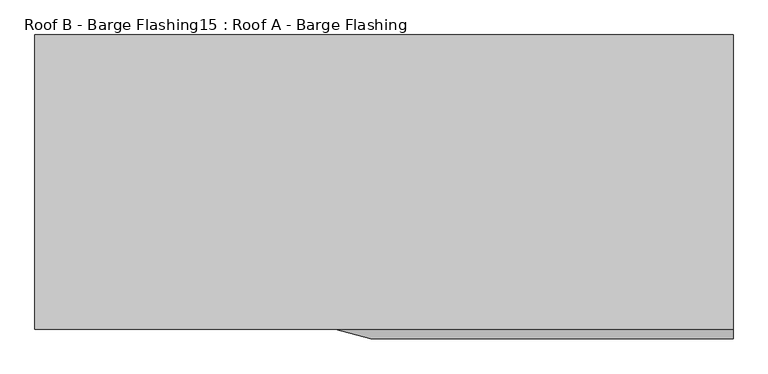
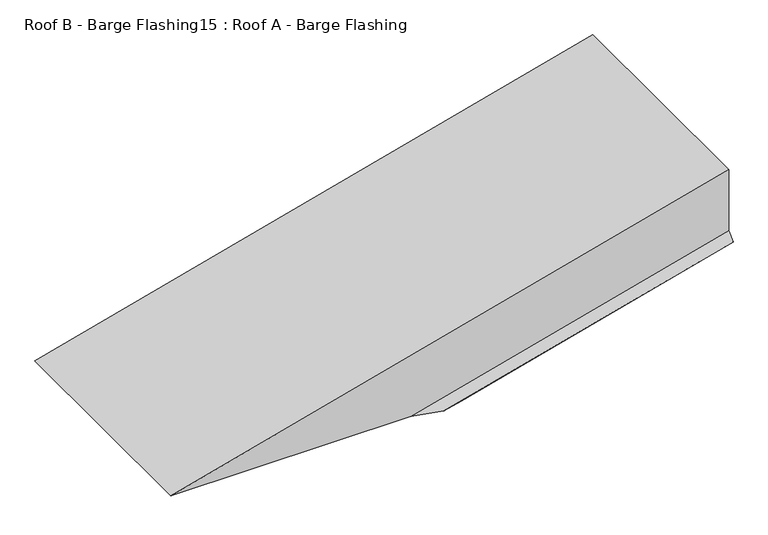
"""IFC4 building model written with IfcOpenShell, lengths in millimetres: proxy geometry, Roof B - Barge Flashing15 : Roof A - Barge Flashing."""

from ifc_helpers import new_model, si_unit, origin, place, context, project, spatial, faceted_brep, source, transform, mapped, element, save


def roof_b_barge_flashing15_roof_a_barge_flashing_a4b13ae1(model_context):
    return source(origin(), model_context, "Body", "Brep", [
        faceted_brep([(-3868.5054177, -9157.4191189, 4178.2897385), (-3688.843214, -9157.4191189, 4178.2897385), (-2805.1448253, -9157.4191189, 4415.0760081), (-2805.1448253, -9157.4191189, 4463.2163505), (-3688.843214, -9156.4191189, 4178.2897385), (-3872.369121, -9156.4191189, 4178.2897385), (-2805.1448253, -9156.4191189, 4464.2516267), (-2805.1448253, -9156.4191189, 4415.0760081), (-3872.369121, -9606.5537327, 4178.2897385), (-3413.5543535, -9606.5537327, 4178.2897385), (-2805.1448253, -9606.5537327, 4341.3125802), (-2805.1448253, -9606.5537327, 4464.2516267), (-3411.9539552, -9605.5537327, 4178.2897385), (-3868.5054177, -9605.5537327, 4178.2897385), (-2805.1448253, -9605.5537327, 4463.2163505), (-2805.1448253, -9605.5537327, 4340.8837548), (-3358.9133373, -9620.6958683, 4178.2897385), (-2805.1448253, -9620.6958683, 4326.6715641), (-3317.9325752, -9610.0892666, 4178.2897385), (-2805.1448253, -9610.0892666, 4315.690802), (-3320.664626, -9609.3821598, 4178.2897385), (-2805.1448253, -9609.3821598, 4316.4228528), (-3358.9133373, -9619.2816548, 4178.2897385), (-2805.1448253, -9619.2816548, 4326.6715641)], [[[0, 1, 2, 3]], [[4, 5, 6, 7]], [[8, 9, 10, 11]], [[12, 13, 14, 15]], [[1, 4, 7, 2]], [[5, 8, 11, 6]], [[9, 16, 17, 10]], [[16, 18, 19, 17]], [[18, 20, 21, 19]], [[20, 22, 23, 21]], [[22, 12, 15, 23]], [[13, 0, 3, 14]], [[1, 0, 13, 12, 22, 20, 18, 16, 9, 8, 5, 4]], [[3, 2, 7, 6, 11, 10, 17, 19, 21, 23, 15, 14]]]),
    ])


if __name__ == "__main__":
    model = new_model("IFC4")
    model_context = context("Model", 3, world=origin())
    ifc_project = project(units=[si_unit("LENGTHUNIT", "METRE", prefix="MILLI")], contexts=[model_context])
    site = spatial("IfcSite", under=ifc_project)
    building = spatial("IfcBuilding", under=site)
    placement = place(None, origin())
    roof_b_barge_flashing15_roof_a_barge_flashing_shape = roof_b_barge_flashing15_roof_a_barge_flashing_a4b13ae1(model_context)
    element("IfcBuildingElementProxy", 1, Name="Roof B - Barge Flashing15 : Roof A - Barge Flashing", ObjectType="Roof B - Barge Flashing15 : Roof A - Barge Flashing", at=placement, inside=building, context=model_context, shape_type="MappedRepresentation", body=[
        mapped(roof_b_barge_flashing15_roof_a_barge_flashing_shape, transform((0.0, 0.0, 0.0), x_axis=(1.0, 0.0, 0.0), y_axis=(0.0, 1.0, 0.0), z_axis=(0.0, 0.0, 1.0))),
    ])
    save(model, "model.ifc")
